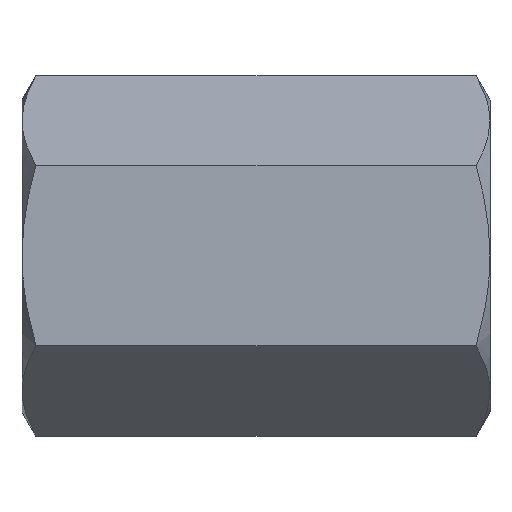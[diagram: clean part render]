
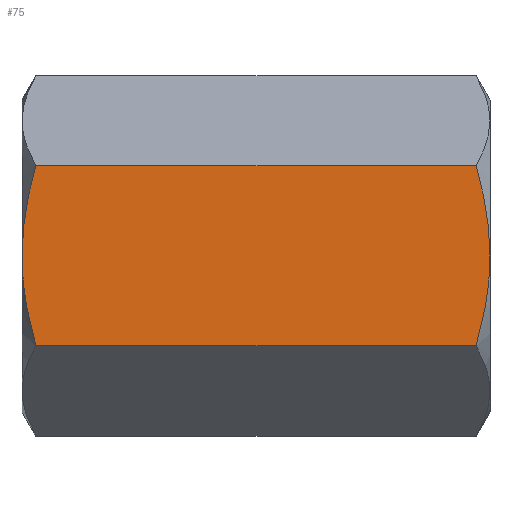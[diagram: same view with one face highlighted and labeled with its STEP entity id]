
A CAD part, top view. The second image highlights one B-rep face of the part: STEP entity #75.
In plain terms, the highlighted planar face has unit normal (0, 0, 1).
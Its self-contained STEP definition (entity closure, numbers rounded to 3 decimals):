
#75 = ADVANCED_FACE( '', ( #99 ), #100, .F. );
#99 = FACE_OUTER_BOUND( '', #150, .T. );
#100 = PLANE( '', #151 );
#150 = EDGE_LOOP( '', ( #201, #202, #203, #204, #205, #206 ) );
#151 = AXIS2_PLACEMENT_3D( '', #207, #208, #209 );
#201 = ORIENTED_EDGE( '', *, *, #362, .F. );
#202 = ORIENTED_EDGE( '', *, *, #363, .F. );
#203 = ORIENTED_EDGE( '', *, *, #364, .F. );
#204 = ORIENTED_EDGE( '', *, *, #365, .T. );
#205 = ORIENTED_EDGE( '', *, *, #366, .F. );
#206 = ORIENTED_EDGE( '', *, *, #367, .F. );
#207 = CARTESIAN_POINT( '', ( 12., 2.309, 4. ) );
#208 = DIRECTION( '', ( 0., 0., -1. ) );
#209 = DIRECTION( '', ( -1., 0., 0. ) );
#362 = EDGE_CURVE( '', #408, #409, #410, .T. );
#363 = EDGE_CURVE( '', #411, #408, #412, .F. );
#364 = EDGE_CURVE( '', #413, #411, #414, .F. );
#365 = EDGE_CURVE( '', #413, #415, #416, .T. );
#366 = EDGE_CURVE( '', #417, #415, #418, .T. );
#367 = EDGE_CURVE( '', #409, #417, #419, .T. );
#408 = VERTEX_POINT( '', #482 );
#409 = VERTEX_POINT( '', #483 );
#410 = LINE( '', #484, #485 );
#411 = VERTEX_POINT( '', #486 );
#412 = B_SPLINE_CURVE_WITH_KNOTS( '', 3, ( #487, #488, #489, #490, #491, #492 ), .UNSPECIFIED., .F., .F., ( 4, 2, 4 ), ( 0.004, 0.005, 0.007 ), .UNSPECIFIED. );
#413 = VERTEX_POINT( '', #493 );
#414 = B_SPLINE_CURVE_WITH_KNOTS( '', 3, ( #494, #495, #496, #497, #498, #499 ), .UNSPECIFIED., .F., .F., ( 4, 2, 4 ), ( 0.007, 0.008, 0.009 ), .UNSPECIFIED. );
#415 = VERTEX_POINT( '', #500 );
#416 = LINE( '', #501, #502 );
#417 = VERTEX_POINT( '', #503 );
#418 = B_SPLINE_CURVE_WITH_KNOTS( '', 3, ( #504, #505, #506, #507, #508, #509 ), .UNSPECIFIED., .F., .F., ( 4, 2, 4 ), ( 0.007, 0.008, 0.009 ), .UNSPECIFIED. );
#419 = B_SPLINE_CURVE_WITH_KNOTS( '', 3, ( #510, #511, #512, #513, #514, #515 ), .UNSPECIFIED., .F., .F., ( 4, 2, 4 ), ( 0.004, 0.005, 0.007 ), .UNSPECIFIED. );
#482 = CARTESIAN_POINT( '', ( 11.643, -2.309, 4. ) );
#483 = CARTESIAN_POINT( '', ( 0.357, -2.309, 4. ) );
#484 = CARTESIAN_POINT( '', ( 12., -2.309, 4. ) );
#485 = VECTOR( '', #666, 1000. );
#486 = CARTESIAN_POINT( '', ( 12., 0., 4. ) );
#487 = CARTESIAN_POINT( '', ( 11.643, -2.309, 4. ) );
#488 = CARTESIAN_POINT( '', ( 11.751, -1.934, 4. ) );
#489 = CARTESIAN_POINT( '', ( 11.842, -1.549, 4. ) );
#490 = CARTESIAN_POINT( '', ( 11.966, -0.778, 4. ) );
#491 = CARTESIAN_POINT( '', ( 12., -0.39, 4. ) );
#492 = CARTESIAN_POINT( '', ( 12., 0., 4. ) );
#493 = CARTESIAN_POINT( '', ( 11.643, 2.309, 4. ) );
#494 = CARTESIAN_POINT( '', ( 12., 0., 4. ) );
#495 = CARTESIAN_POINT( '', ( 12., 0.391, 4. ) );
#496 = CARTESIAN_POINT( '', ( 11.965, 0.787, 4. ) );
#497 = CARTESIAN_POINT( '', ( 11.84, 1.558, 4. ) );
#498 = CARTESIAN_POINT( '', ( 11.751, 1.936, 4. ) );
#499 = CARTESIAN_POINT( '', ( 11.643, 2.309, 4. ) );
#500 = CARTESIAN_POINT( '', ( 0.357, 2.309, 4. ) );
#501 = CARTESIAN_POINT( '', ( 12., 2.309, 4. ) );
#502 = VECTOR( '', #667, 1000. );
#503 = CARTESIAN_POINT( '', ( 0., 0., 4. ) );
#504 = CARTESIAN_POINT( '', ( 0., 0., 4. ) );
#505 = CARTESIAN_POINT( '', ( 0., 0.391, 4. ) );
#506 = CARTESIAN_POINT( '', ( 0.035, 0.787, 4. ) );
#507 = CARTESIAN_POINT( '', ( 0.16, 1.558, 4. ) );
#508 = CARTESIAN_POINT( '', ( 0.249, 1.936, 4. ) );
#509 = CARTESIAN_POINT( '', ( 0.357, 2.309, 4. ) );
#510 = CARTESIAN_POINT( '', ( 0.357, -2.309, 4. ) );
#511 = CARTESIAN_POINT( '', ( 0.249, -1.934, 4. ) );
#512 = CARTESIAN_POINT( '', ( 0.158, -1.549, 4. ) );
#513 = CARTESIAN_POINT( '', ( 0.034, -0.778, 4. ) );
#514 = CARTESIAN_POINT( '', ( 0., -0.39, 4. ) );
#515 = CARTESIAN_POINT( '', ( 0., 0., 4. ) );
#666 = DIRECTION( '', ( -1., 0., 0. ) );
#667 = DIRECTION( '', ( -1., 0., 0. ) );
